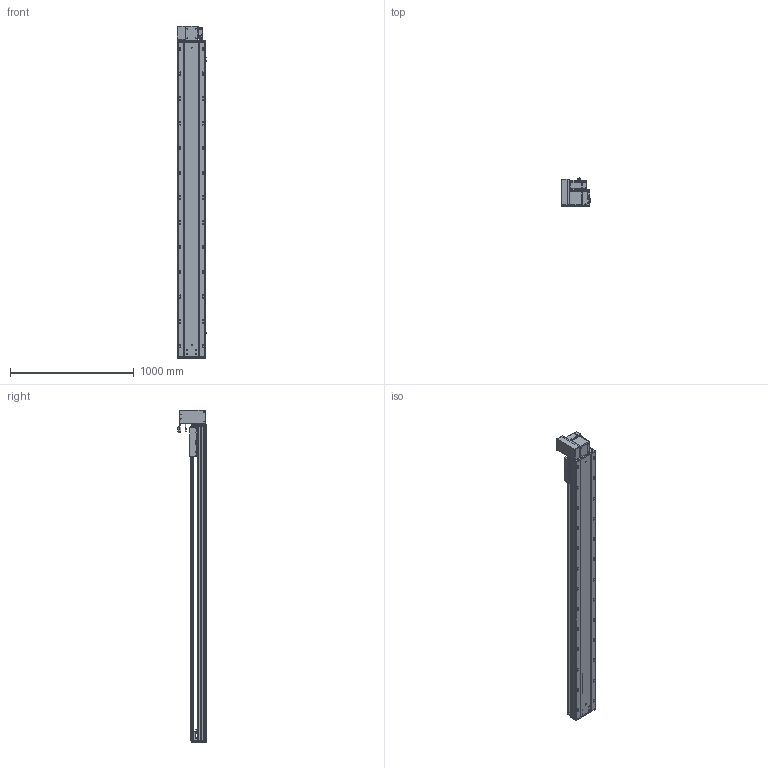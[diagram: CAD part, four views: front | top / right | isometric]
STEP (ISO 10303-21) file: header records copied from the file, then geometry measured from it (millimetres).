
FILE_DESCRIPTION (( 'STEP AP203' ), '1' );
FILE_NAME ('RY220-T-300-UL.SLDASM_2200.step', '2022-07-25T08:35:14', ( '' ), ( '' ), 'SwSTEP 2.0', 'SolidWorks 2016', '' );
FILE_SCHEMA (( 'CONFIG_CONTROL_DESIGN' ));
Length unit declared in the file: millimetre
Products named in the file (14): 滅袉蝶18-15; RY220翋肮祭謫裔啣; RY220-T-300-UL.SLDASM_2200; 覜茼ん672; RY220-T-湍謫欶(鍼踢); RY220-T-300-奻裔啣_2200; RY220-T菁釱-300_2200; RY220圉猾敕々湍臏賑輸; RY220-同步轮副支撑座6304×2; 110A-T-肮祭謫釱傷裔; RY220翋肮祭謫釱; 怢湛750W_ECMA-CX0807ES; RY220-T-蛌殏萇儂假蚾啣(750W); RY220-俋离672覜茼んえ
Assembly tree (18 placements, depth 2):
  RY220-T-300-UL.SLDASM_2200
    RY220-T菁釱-300_2200
    RY220翋肮祭謫釱
    覜茼ん672  x3
    RY220圉猾敕々湍臏賑輸
    RY220-T-300-奻裔啣_2200
    RY220-俋离672覜茼んえ
    滅袉蝶18-15  x3
    RY220翋肮祭謫裔啣  x2
    110A-T-肮祭謫釱傷裔
    怢湛750W_ECMA-CX0807ES
    RY220-T-湍謫欶(鍼踢)
    RY220-T-蛌殏萇儂假蚾啣(750W)
    RY220-同步轮副支撑座6304×2
Bounding box: 239.7 x 231.74 x 2680.5 mm (x, y, z)
Volume: 20027861.2 mm3; surface area: 6111368.1 mm2
Topology: 19 solids, 19 shells, 2868 faces, 7923 edges, 4982 vertices
Faces by surface type: cylinder 1388, plane 1069, cone 329, bspline 56, sphere 16, torus 10
Entity records: 95475 total; most frequent: CARTESIAN_POINT 27009, ORIENTED_EDGE 14170, DIRECTION 13588, EDGE_CURVE 7085, AXIS2_PLACEMENT_3D 4870, VERTEX_POINT 4606, LINE 3848, VECTOR 3848
